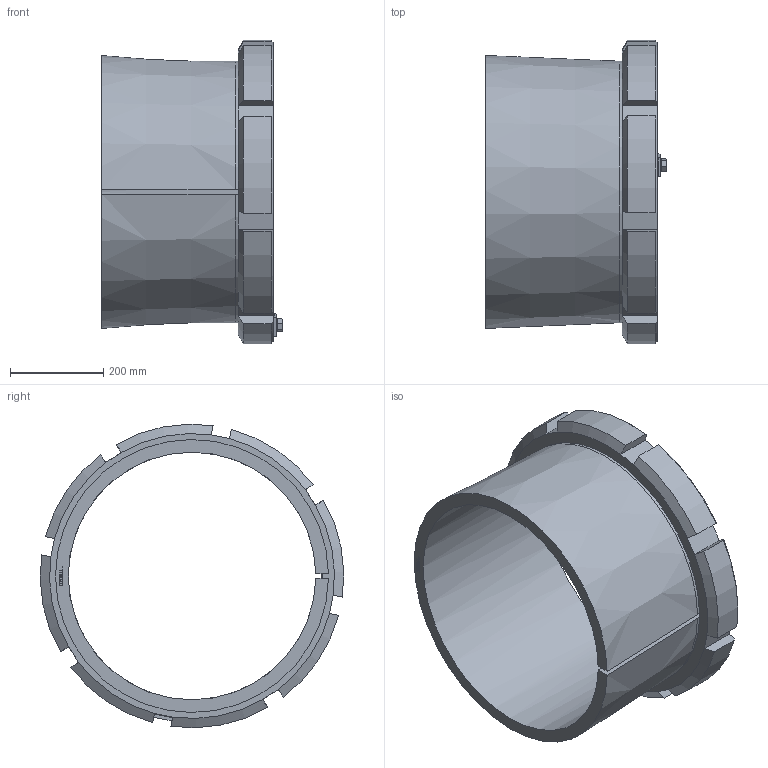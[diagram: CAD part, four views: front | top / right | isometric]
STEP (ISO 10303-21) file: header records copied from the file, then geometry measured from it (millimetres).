
FILE_DESCRIPTION( ( 'STEP AP203' ), ' ' );
FILE_NAME( 'p:/temp/worker_325/2072_4104/app_90_02016102820265582906897192d056f_000000_00_00_000000/format_0/BGL H 31_560 TL+222_560K.stp', '2016-10-28T18:26:58', ( '' ), ( '' ), ' ', 'PARTsolutions', ' ' );
FILE_SCHEMA( ( 'CONFIG_CONTROL_DESIGN' ) );
Length unit declared in the file: millimetre
Products named in the file (6): BGL H 31/560 TL+222/560K; _BGLH31/560TLB; _BGL HM 30/560; _BGLH31/560TL+H-222/560K; _BGL MS 30/560part; _BGL MS 30/560HHS
Assembly tree (5 placements, depth 2):
  BGL H 31/560 TL+222/560K
    _BGLH31/560TLB
    _BGL HM 30/560
    _BGLH31/560TL+H-222/560K
    _BGL MS 30/560part
    _BGL MS 30/560HHS
Bounding box: 386.98 x 649.77 x 649.77 mm (x, y, z)
Volume: 18489722.2 mm3; surface area: 1815332.1 mm2
Topology: 4 solids, 4 shells, 335 faces, 873 edges, 574 vertices
Faces by surface type: plane 224, cylinder 74, cone 37
Full cylindrical faces by diameter (mm): 16 x9, 18 x1, 24.4 x1, 554 x1
Entity records: 10458 total; most frequent: CARTESIAN_POINT 2073, ORIENTED_EDGE 1694, DIRECTION 1665, EDGE_CURVE 847, LINE 575, VECTOR 575, VERTEX_POINT 570, AXIS2_PLACEMENT_3D 545
